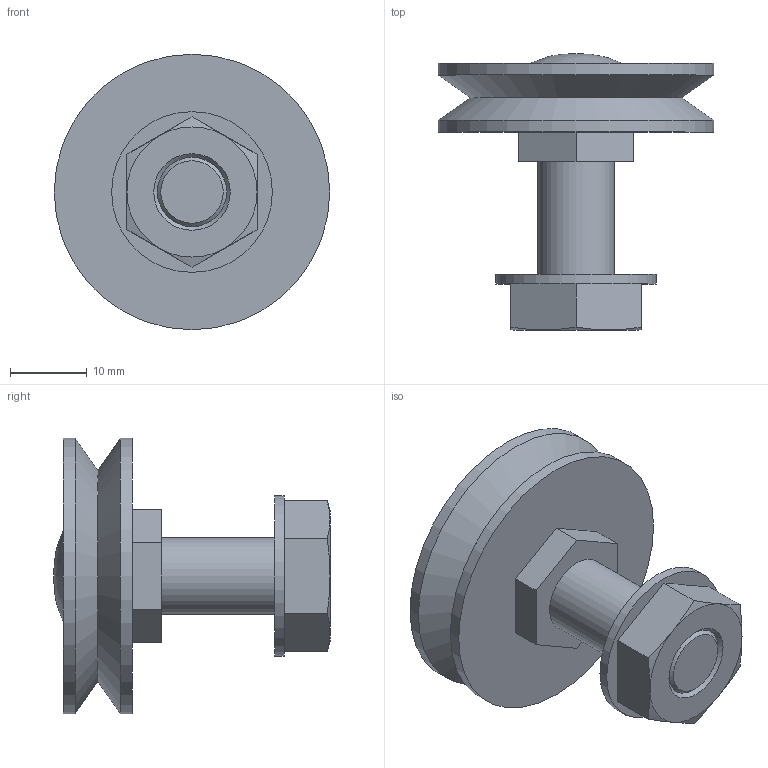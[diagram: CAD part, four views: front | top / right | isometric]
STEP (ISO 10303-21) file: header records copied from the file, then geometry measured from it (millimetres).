
FILE_DESCRIPTION( ( 'STEP AP203' ), '1' );
FILE_NAME( 'p:/temp/worker_106/temp/exporttempdir_768_507_jqZJW/format_0/GLJ360C.stp', '2021-09-29T06:42:10', ( 'License CC BY-ND 4.0' ), ( 'CADENAS' ), ' ', 'PARTsolutions', ' ' );
FILE_SCHEMA( ( 'CONFIG_CONTROL_DESIGN' ) );
Length unit declared in the file: millimetre
Products named in the file (2): GLJ360C; _GLJ360C
Assembly tree (1 placements, depth 2):
  GLJ360C
    _GLJ360C
Bounding box: 36 x 36.07 x 36 mm (x, y, z)
Volume: 11767.4 mm3; surface area: 5057.9 mm2
Topology: 1 solids, 1 shells, 34 faces, 74 edges, 47 vertices
Faces by surface type: plane 19, cone 10, cylinder 4, bspline 1
Full cylindrical faces by diameter (mm): 10 x1, 21 x1, 36 x2
Entity records: 962 total; most frequent: CARTESIAN_POINT 208, DIRECTION 138, ORIENTED_EDGE 122, EDGE_CURVE 61, AXIS2_PLACEMENT_3D 54, EDGE_LOOP 48, VERTEX_POINT 44, FACE_OUTER_BOUND 38
